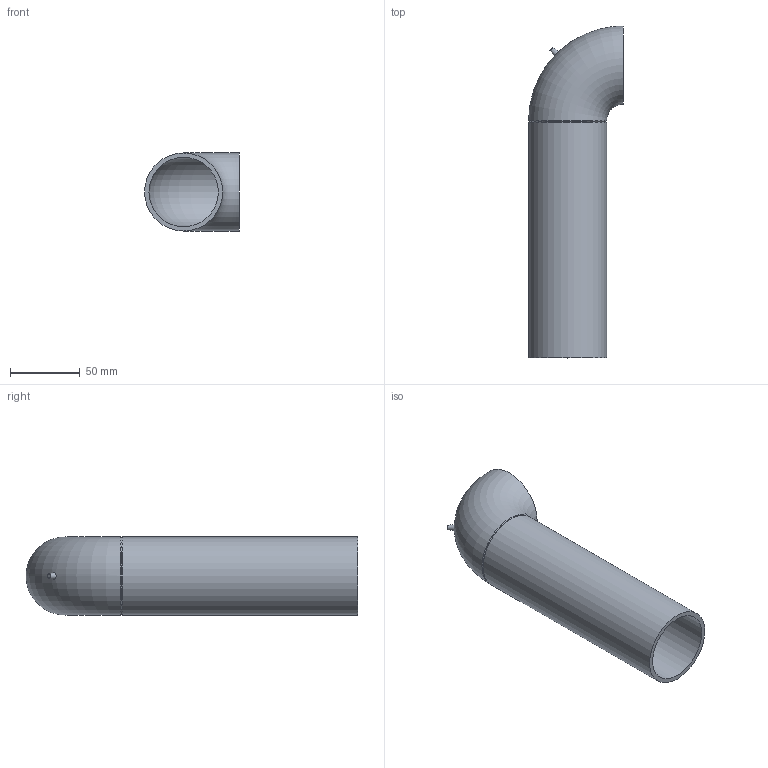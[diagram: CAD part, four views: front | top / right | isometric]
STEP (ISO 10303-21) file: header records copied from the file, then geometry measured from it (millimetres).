
FILE_DESCRIPTION(/* description */ (''),/* implementation_level */ '2;1');
FILE_NAME(/* name */ 'Z:\Geberit\Export\NewStep\363055.stp',/* time_stamp */ '2014-04-01T21:08:35+02:00',/* author */ ('bruh'),/* organization */ (''),/* preprocessor_version */ 'ST-DEVELOPER v15.2',/* originating_system */ 'Autodesk Inventor 2014',/* authorisation */ '');
FILE_SCHEMA (('AUTOMOTIVE_DESIGN { 1 0 10303 214 3 1 1 }'));
Length unit declared in the file: millimetre
Products named in the file (1): 363055
Bounding box: 68 x 238 x 56 mm (x, y, z)
Volume: 121775.1 mm3; surface area: 78492.1 mm2
Topology: 1 solids, 1 shells, 10 faces, 20 edges, 12 vertices
Faces by surface type: cone 3, plane 3, cylinder 2, torus 2
Full cylindrical faces by diameter (mm): 49.7 x1, 56 x1
Entity records: 279 total; most frequent: CARTESIAN_POINT 74, DIRECTION 40, EDGE_LOOP 20, ORIENTED_EDGE 20, AXIS2_PLACEMENT_3D 20, FACE_BOUND 12, STYLED_ITEM 11, VERTEX_POINT 10
